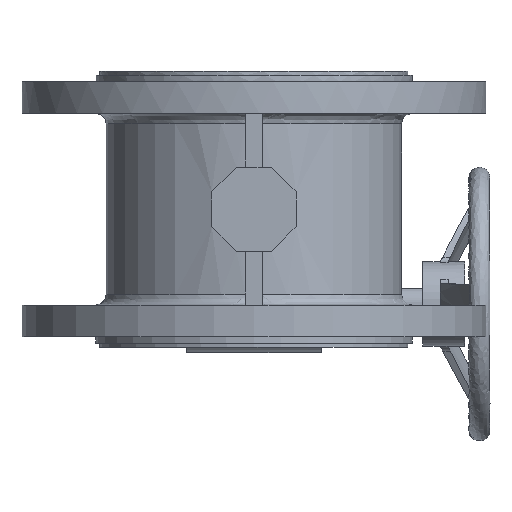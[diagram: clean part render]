
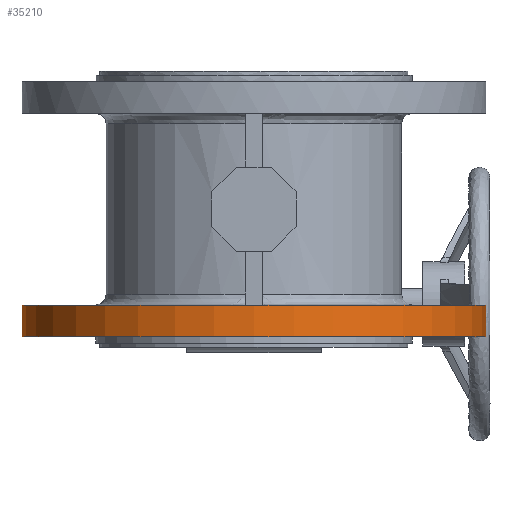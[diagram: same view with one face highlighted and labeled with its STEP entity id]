
A CAD part, front view. The second image highlights one B-rep face of the part: STEP entity #35210.
In plain terms, the highlighted cylindrical face has radius 110 mm (diameter 220 mm), a full revolution.
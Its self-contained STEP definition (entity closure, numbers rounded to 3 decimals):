
#6159 = CIRCLE ( 'NONE', #68072, 110. ) ;
#12834 = CARTESIAN_POINT ( 'NONE',  ( 110., 0., -45.5 ) ) ;
#12857 = AXIS2_PLACEMENT_3D ( 'NONE', #18623, #22174, #50534 ) ;
#14198 = CIRCLE ( 'NONE', #35288, 110. ) ;
#16400 = DIRECTION ( 'NONE',  ( 1., 0., 0. ) ) ;
#18274 = FACE_OUTER_BOUND ( 'NONE', #33656, .T. ) ;
#18623 = CARTESIAN_POINT ( 'NONE',  ( 0., 0., 0. ) ) ;
#22174 = DIRECTION ( 'NONE',  ( 0., 0., 1. ) ) ;
#22764 = ORIENTED_EDGE ( 'NONE', *, *, #34650, .F. ) ;
#23540 = VERTEX_POINT ( 'NONE', #23878 ) ;
#23878 = CARTESIAN_POINT ( 'NONE',  ( 110., 0., -60.5 ) ) ;
#29710 = FACE_OUTER_BOUND ( 'NONE', #67183, .T. ) ;
#33656 = EDGE_LOOP ( 'NONE', ( #22764 ) ) ;
#34650 = EDGE_CURVE ( 'NONE', #59235, #59235, #6159, .T. ) ;
#35210 = ADVANCED_FACE ( 'NONE', ( #29710, #18274 ), #43020, .F. ) ;
#35288 = AXIS2_PLACEMENT_3D ( 'NONE', #66905, #51038, #41313 ) ;
#36549 = CARTESIAN_POINT ( 'NONE',  ( 0., 0., -45.5 ) ) ;
#41313 = DIRECTION ( 'NONE',  ( 1., 0., 0. ) ) ;
#43020 = CYLINDRICAL_SURFACE ( 'NONE', #12857, 110. ) ;
#43103 = DIRECTION ( 'NONE',  ( 0., 0., -1. ) ) ;
#47309 = ORIENTED_EDGE ( 'NONE', *, *, #50882, .F. ) ;
#50534 = DIRECTION ( 'NONE',  ( 1., 0., 0. ) ) ;
#50882 = EDGE_CURVE ( 'NONE', #23540, #23540, #14198, .T. ) ;
#51038 = DIRECTION ( 'NONE',  ( 0., 0., 1. ) ) ;
#59235 = VERTEX_POINT ( 'NONE', #12834 ) ;
#66905 = CARTESIAN_POINT ( 'NONE',  ( 0., 0., -60.5 ) ) ;
#67183 = EDGE_LOOP ( 'NONE', ( #47309 ) ) ;
#68072 = AXIS2_PLACEMENT_3D ( 'NONE', #36549, #43103, #16400 ) ;
